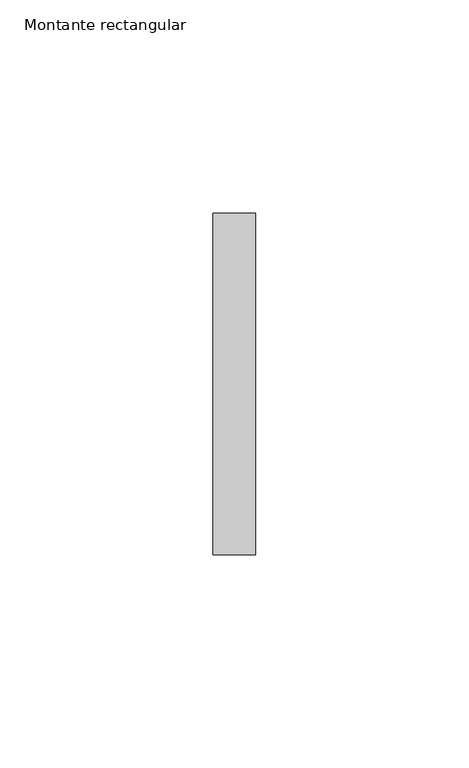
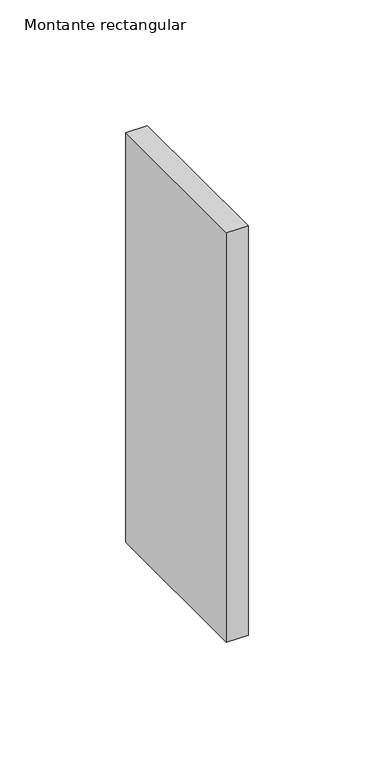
"""IFC4 building model written with IfcOpenShell, lengths in millimetres: member geometry, Montante rectangular : Junta de paves."""

from ifc_helpers import new_model, si_unit, frame, origin, place, context, project, spatial, polyline, outline, extrude, source, transform, mapped, element, save


def montante_rectangular_ca4572ea(model_context):
    return source(origin(), model_context, "Body", "SweptSolid", [
        extrude(outline(polyline([(0.0, 40.0), (0.0, -40.0), (-10.0, -40.0), (-10.0, 40.0), (0.0, 40.0)])), frame((0.0, 0.0, -198.8888889), z_axis=(0.0, 0.0, 1.0), x_axis=(1.0, 0.0, 0.0)), (0.0, 0.0, 1.0), 198.8888889),
    ])


if __name__ == "__main__":
    model = new_model("IFC4")
    model_context = context("Model", 3, world=origin())
    ifc_project = project(units=[si_unit("LENGTHUNIT", "METRE", prefix="MILLI")], contexts=[model_context])
    site = spatial("IfcSite", under=ifc_project)
    building = spatial("IfcBuilding", under=site)
    placement = place(None, origin())
    montante_rectangular_shape = montante_rectangular_ca4572ea(model_context)
    element("IfcMember", 1, ObjectType="Montante rectangular : Junta de paves", at=placement, inside=building, context=model_context, shape_type="MappedRepresentation", body=[
        mapped(montante_rectangular_shape, transform((0.0, 0.0, 0.0), x_axis=(1.0, 0.0, 0.0), y_axis=(0.0, 1.0, 0.0), z_axis=(0.0, 0.0, 1.0))),
    ])
    save(model, "model.ifc")
